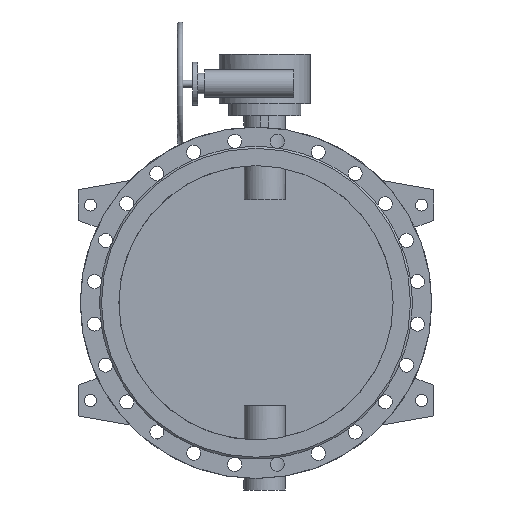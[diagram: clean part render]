
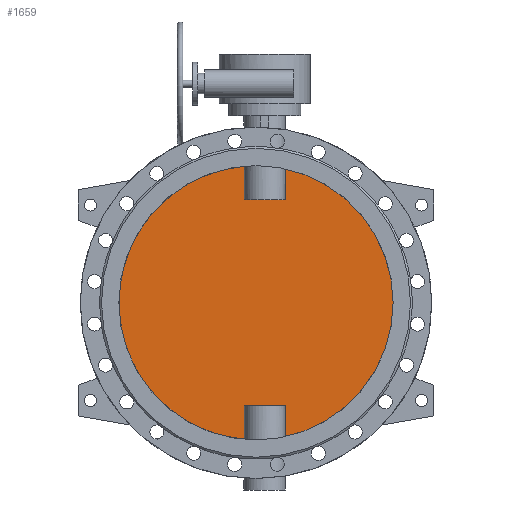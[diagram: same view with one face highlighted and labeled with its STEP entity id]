
A CAD part, front view. The second image highlights one B-rep face of the part: STEP entity #1659.
In plain terms, the highlighted planar face has unit normal (0, -1, 0).
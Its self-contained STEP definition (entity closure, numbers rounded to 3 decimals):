
#1659=ADVANCED_FACE('',(#3405),#3407,.F.);
#3405=FACE_BOUND('',#3406,.T.);
#3406=EDGE_LOOP('',(#4630,#4631,#4632,#4633,#4634,#4635,#4636,#4637));
#3407=PLANE('',#3408);
#3408=AXIS2_PLACEMENT_3D('',#3409,#3410,#3411);
#3409=CARTESIAN_POINT('',(0.,-5.,0.));
#3410=DIRECTION('',(0.,1.,0.));
#3411=DIRECTION('',(1.,0.,0.));
#4630=ORIENTED_EDGE('',*,*,#5258,.T.);
#4631=ORIENTED_EDGE('',*,*,#5268,.T.);
#4632=ORIENTED_EDGE('',*,*,#5269,.T.);
#4633=ORIENTED_EDGE('',*,*,#5270,.T.);
#4634=ORIENTED_EDGE('',*,*,#5260,.T.);
#4635=ORIENTED_EDGE('',*,*,#5271,.T.);
#4636=ORIENTED_EDGE('',*,*,#5272,.T.);
#4637=ORIENTED_EDGE('',*,*,#5273,.T.);
#5258=EDGE_CURVE('',#6247,#6248,#6249,.F.);
#5260=EDGE_CURVE('',#6252,#6250,#6253,.F.);
#5268=EDGE_CURVE('',#6248,#6267,#6268,.T.);
#5269=EDGE_CURVE('',#6267,#6269,#6270,.F.);
#5270=EDGE_CURVE('',#6269,#6252,#6271,.F.);
#5271=EDGE_CURVE('',#6250,#6272,#6273,.F.);
#5272=EDGE_CURVE('',#6272,#6274,#6275,.F.);
#5273=EDGE_CURVE('',#6274,#6247,#6276,.T.);
#6247=VERTEX_POINT('',#11823);
#6248=VERTEX_POINT('',#11824);
#6249=CIRCLE('',#11825,400.);
#6250=VERTEX_POINT('',#11829);
#6252=VERTEX_POINT('',#11936);
#6253=CIRCLE('',#11937,400.);
#6267=VERTEX_POINT('',#12078);
#6268=LINE('',#12079,#12080);
#6269=VERTEX_POINT('',#12082);
#6270=LINE('',#12083,#12084);
#6271=LINE('',#12086,#12087);
#6272=VERTEX_POINT('',#12089);
#6273=LINE('',#12090,#12091);
#6274=VERTEX_POINT('',#12093);
#6275=LINE('',#12094,#12095);
#6276=LINE('',#12097,#12098);
#11823=CARTESIAN_POINT('',(84.791,-5.,-390.91));
#11824=CARTESIAN_POINT('',(84.791,-5.,390.91));
#11825=AXIS2_PLACEMENT_3D('',#11826,#11827,#11828);
#11826=CARTESIAN_POINT('',(0.,-5.,0.));
#11827=DIRECTION('',(0.,1.,0.));
#11828=DIRECTION('',(0.212,0.,0.977));
#11829=CARTESIAN_POINT('',(-34.791,-5.,-398.484));
#11936=CARTESIAN_POINT('',(-34.791,-5.,398.484));
#11937=AXIS2_PLACEMENT_3D('',#11938,#11939,#11940);
#11938=CARTESIAN_POINT('',(0.,-5.,0.));
#11939=DIRECTION('',(0.,1.,0.));
#11940=DIRECTION('',(-0.087,0.,-0.996));
#12078=CARTESIAN_POINT('',(84.791,-5.,300.));
#12079=CARTESIAN_POINT('',(84.791,-5.,390.91));
#12080=VECTOR('',#12081,1.);
#12081=DIRECTION('',(0.,0.,-1.));
#12082=CARTESIAN_POINT('',(-34.791,-5.,300.));
#12083=CARTESIAN_POINT('',(-34.791,-5.,300.));
#12084=VECTOR('',#12085,1.);
#12085=DIRECTION('',(1.,0.,0.));
#12086=CARTESIAN_POINT('',(-34.791,-5.,398.484));
#12087=VECTOR('',#12088,1.);
#12088=DIRECTION('',(0.,0.,-1.));
#12089=CARTESIAN_POINT('',(-34.791,-5.,-300.));
#12090=CARTESIAN_POINT('',(-34.791,-5.,-300.));
#12091=VECTOR('',#12092,1.);
#12092=DIRECTION('',(0.,0.,-1.));
#12093=CARTESIAN_POINT('',(84.791,-5.,-300.));
#12094=CARTESIAN_POINT('',(84.791,-5.,-300.));
#12095=VECTOR('',#12096,1.);
#12096=DIRECTION('',(-1.,0.,0.));
#12097=CARTESIAN_POINT('',(84.791,-5.,-300.));
#12098=VECTOR('',#12099,1.);
#12099=DIRECTION('',(0.,0.,-1.));
